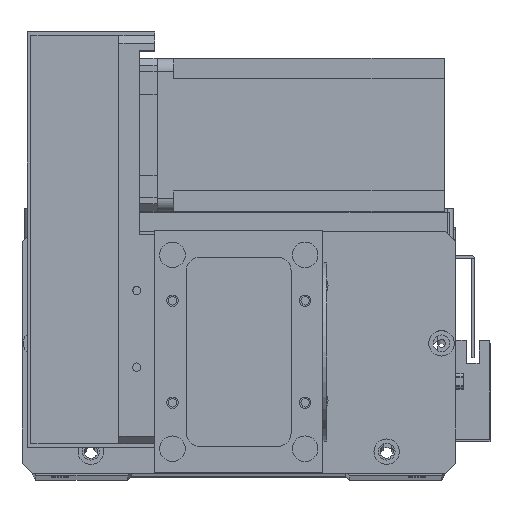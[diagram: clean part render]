
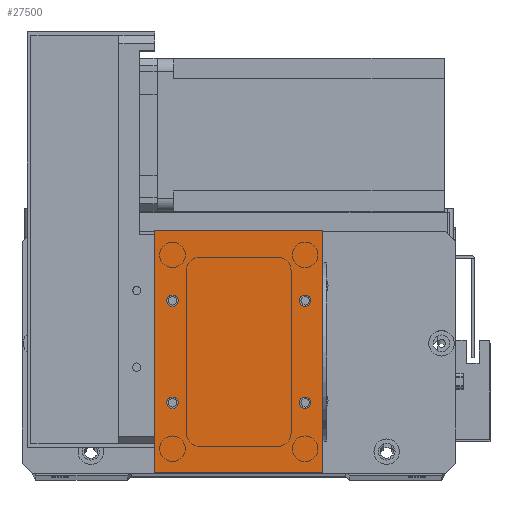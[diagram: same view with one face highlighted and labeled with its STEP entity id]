
A CAD part, top view. The second image highlights one B-rep face of the part: STEP entity #27500.
In plain terms, the highlighted planar face has unit normal (0, 0, 1).
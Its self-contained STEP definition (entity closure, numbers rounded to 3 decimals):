
#495 = ORIENTED_EDGE ( 'NONE', *, *, #8821, .F. ) ;
#1151 = CARTESIAN_POINT ( 'NONE',  ( 59., 67.5, 2. ) ) ;
#1283 = CARTESIAN_POINT ( 'NONE',  ( 56.75, 27.5, 2. ) ) ;
#1325 = VERTEX_POINT ( 'NONE', #14558 ) ;
#1907 = ORIENTED_EDGE ( 'NONE', *, *, #3345, .F. ) ;
#2435 = CIRCLE ( 'NONE', #11337, 2.25 ) ;
#2570 = VECTOR ( 'NONE', #3395, 1000. ) ;
#3345 = EDGE_CURVE ( 'NONE', #15956, #5328, #23973, .T. ) ;
#3395 = DIRECTION ( 'NONE',  ( 0., 1., 0. ) ) ;
#3399 = CARTESIAN_POINT ( 'NONE',  ( 61.25, 67.5, 2. ) ) ;
#3590 = DIRECTION ( 'NONE',  ( 1., 0., 0. ) ) ;
#3611 = CIRCLE ( 'NONE', #29506, 2.25 ) ;
#3746 = ORIENTED_EDGE ( 'NONE', *, *, #20732, .T. ) ;
#4739 = VECTOR ( 'NONE', #21566, 1000. ) ;
#4753 = EDGE_CURVE ( 'NONE', #9817, #18248, #24252, .T. ) ;
#4979 = FACE_BOUND ( 'NONE', #23261, .T. ) ;
#5328 = VERTEX_POINT ( 'NONE', #3399 ) ;
#5499 = LINE ( 'NONE', #14228, #4739 ) ;
#5557 = VECTOR ( 'NONE', #27913, 1000. ) ;
#5656 = VECTOR ( 'NONE', #30428, 1000. ) ;
#5910 = VERTEX_POINT ( 'NONE', #1283 ) ;
#6251 = ORIENTED_EDGE ( 'NONE', *, *, #14326, .F. ) ;
#6883 = CIRCLE ( 'NONE', #19799, 2.25 ) ;
#7106 = PLANE ( 'NONE',  #12687 ) ;
#7170 = CARTESIAN_POINT ( 'NONE',  ( 9.25, 67.5, 2. ) ) ;
#7381 = DIRECTION ( 'NONE',  ( 0., 0., 1. ) ) ;
#7490 = VERTEX_POINT ( 'NONE', #22268 ) ;
#8037 = CIRCLE ( 'NONE', #22294, 2.25 ) ;
#8254 = CARTESIAN_POINT ( 'NONE',  ( 7., 27.5, 2. ) ) ;
#8385 = ORIENTED_EDGE ( 'NONE', *, *, #10514, .F. ) ;
#8672 = ORIENTED_EDGE ( 'NONE', *, *, #17913, .F. ) ;
#8821 = EDGE_CURVE ( 'NONE', #7490, #30368, #26338, .T. ) ;
#9564 = DIRECTION ( 'NONE',  ( -1., 0., 0. ) ) ;
#9817 = VERTEX_POINT ( 'NONE', #16809 ) ;
#10223 = DIRECTION ( 'NONE',  ( 0., 0., 1. ) ) ;
#10514 = EDGE_CURVE ( 'NONE', #26130, #27397, #6883, .T. ) ;
#10553 = CARTESIAN_POINT ( 'NONE',  ( 66., 95., 2. ) ) ;
#10592 = LINE ( 'NONE', #30069, #2570 ) ;
#10692 = FACE_OUTER_BOUND ( 'NONE', #25922, .T. ) ;
#10721 = DIRECTION ( 'NONE',  ( 1., 0., 0. ) ) ;
#11205 = AXIS2_PLACEMENT_3D ( 'NONE', #14096, #31077, #16533 ) ;
#11337 = AXIS2_PLACEMENT_3D ( 'NONE', #1151, #18175, #3590 ) ;
#11464 = FACE_BOUND ( 'NONE', #19363, .T. ) ;
#11471 = CARTESIAN_POINT ( 'NONE',  ( 7., 67.5, 2. ) ) ;
#11882 = CARTESIAN_POINT ( 'NONE',  ( 59., 67.5, 2. ) ) ;
#12155 = ORIENTED_EDGE ( 'NONE', *, *, #22441, .F. ) ;
#12687 = AXIS2_PLACEMENT_3D ( 'NONE', #31322, #24145, #9564 ) ;
#13354 = CARTESIAN_POINT ( 'NONE',  ( 0., 0., 2. ) ) ;
#13371 = EDGE_LOOP ( 'NONE', ( #12155, #8385 ) ) ;
#13533 = CIRCLE ( 'NONE', #11205, 2.25 ) ;
#13719 = VERTEX_POINT ( 'NONE', #10553 ) ;
#13921 = DIRECTION ( 'NONE',  ( 1., 0., 0. ) ) ;
#14096 = CARTESIAN_POINT ( 'NONE',  ( 7., 67.5, 2. ) ) ;
#14228 = CARTESIAN_POINT ( 'NONE',  ( 0., 0., 2. ) ) ;
#14326 = EDGE_CURVE ( 'NONE', #5328, #15956, #2435, .T. ) ;
#14334 = DIRECTION ( 'NONE',  ( 1., 0., 0. ) ) ;
#14500 = DIRECTION ( 'NONE',  ( 0., 0., 1. ) ) ;
#14558 = CARTESIAN_POINT ( 'NONE',  ( 61.25, 27.5, 2. ) ) ;
#15956 = VERTEX_POINT ( 'NONE', #17694 ) ;
#16383 = CARTESIAN_POINT ( 'NONE',  ( 9.25, 27.5, 2. ) ) ;
#16533 = DIRECTION ( 'NONE',  ( 1., 0., 0. ) ) ;
#16809 = CARTESIAN_POINT ( 'NONE',  ( 0., 0., 2. ) ) ;
#16904 = AXIS2_PLACEMENT_3D ( 'NONE', #11471, #28492, #13921 ) ;
#17176 = FACE_BOUND ( 'NONE', #13371, .T. ) ;
#17694 = CARTESIAN_POINT ( 'NONE',  ( 56.75, 67.5, 2. ) ) ;
#17913 = EDGE_CURVE ( 'NONE', #1325, #5910, #26390, .T. ) ;
#18005 = ORIENTED_EDGE ( 'NONE', *, *, #24679, .F. ) ;
#18175 = DIRECTION ( 'NONE',  ( 0., 0., 1. ) ) ;
#18248 = VERTEX_POINT ( 'NONE', #27812 ) ;
#18617 = LINE ( 'NONE', #25596, #5656 ) ;
#18718 = EDGE_CURVE ( 'NONE', #5910, #1325, #8037, .T. ) ;
#18923 = ORIENTED_EDGE ( 'NONE', *, *, #22608, .T. ) ;
#19363 = EDGE_LOOP ( 'NONE', ( #8672, #24315 ) ) ;
#19799 = AXIS2_PLACEMENT_3D ( 'NONE', #21958, #7381, #24438 ) ;
#19949 = CARTESIAN_POINT ( 'NONE',  ( 4.75, 27.5, 2. ) ) ;
#20124 = EDGE_CURVE ( 'NONE', #13719, #24733, #18617, .T. ) ;
#20732 = EDGE_CURVE ( 'NONE', #18248, #13719, #10592, .T. ) ;
#21552 = ORIENTED_EDGE ( 'NONE', *, *, #4753, .T. ) ;
#21566 = DIRECTION ( 'NONE',  ( 0., -1., 0. ) ) ;
#21958 = CARTESIAN_POINT ( 'NONE',  ( 7., 27.5, 2. ) ) ;
#22268 = CARTESIAN_POINT ( 'NONE',  ( 4.75, 67.5, 2. ) ) ;
#22294 = AXIS2_PLACEMENT_3D ( 'NONE', #24806, #10223, #27247 ) ;
#22441 = EDGE_CURVE ( 'NONE', #27397, #26130, #3611, .T. ) ;
#22608 = EDGE_CURVE ( 'NONE', #24733, #9817, #5499, .T. ) ;
#23137 = EDGE_LOOP ( 'NONE', ( #18005, #495 ) ) ;
#23261 = EDGE_LOOP ( 'NONE', ( #6251, #1907 ) ) ;
#23644 = FACE_BOUND ( 'NONE', #23137, .T. ) ;
#23973 = CIRCLE ( 'NONE', #24144, 2.25 ) ;
#24144 = AXIS2_PLACEMENT_3D ( 'NONE', #11882, #28902, #14334 ) ;
#24145 = DIRECTION ( 'NONE',  ( 0., 0., -1. ) ) ;
#24252 = LINE ( 'NONE', #13354, #5557 ) ;
#24315 = ORIENTED_EDGE ( 'NONE', *, *, #18718, .F. ) ;
#24438 = DIRECTION ( 'NONE',  ( 1., 0., 0. ) ) ;
#24679 = EDGE_CURVE ( 'NONE', #30368, #7490, #13533, .T. ) ;
#24733 = VERTEX_POINT ( 'NONE', #28861 ) ;
#24806 = CARTESIAN_POINT ( 'NONE',  ( 59., 27.5, 2. ) ) ;
#25313 = DIRECTION ( 'NONE',  ( 0., 0., 1. ) ) ;
#25596 = CARTESIAN_POINT ( 'NONE',  ( 0., 95., 2. ) ) ;
#25789 = ORIENTED_EDGE ( 'NONE', *, *, #20124, .T. ) ;
#25922 = EDGE_LOOP ( 'NONE', ( #18923, #21552, #3746, #25789 ) ) ;
#26130 = VERTEX_POINT ( 'NONE', #19949 ) ;
#26338 = CIRCLE ( 'NONE', #16904, 2.25 ) ;
#26390 = CIRCLE ( 'NONE', #27382, 2.25 ) ;
#27247 = DIRECTION ( 'NONE',  ( 1., 0., 0. ) ) ;
#27382 = AXIS2_PLACEMENT_3D ( 'NONE', #29054, #14500, #31492 ) ;
#27397 = VERTEX_POINT ( 'NONE', #16383 ) ;
#27500 = ADVANCED_FACE ( 'NONE', ( #23644, #4979, #11464, #17176, #10692 ), #7106, .F. ) ;
#27812 = CARTESIAN_POINT ( 'NONE',  ( 66., 0., 2. ) ) ;
#27913 = DIRECTION ( 'NONE',  ( 1., 0., 0. ) ) ;
#28492 = DIRECTION ( 'NONE',  ( 0., 0., 1. ) ) ;
#28861 = CARTESIAN_POINT ( 'NONE',  ( 0., 95., 2. ) ) ;
#28902 = DIRECTION ( 'NONE',  ( 0., 0., 1. ) ) ;
#29054 = CARTESIAN_POINT ( 'NONE',  ( 59., 27.5, 2. ) ) ;
#29506 = AXIS2_PLACEMENT_3D ( 'NONE', #8254, #25313, #10721 ) ;
#30069 = CARTESIAN_POINT ( 'NONE',  ( 66., 0., 2. ) ) ;
#30368 = VERTEX_POINT ( 'NONE', #7170 ) ;
#30428 = DIRECTION ( 'NONE',  ( -1., 0., 0. ) ) ;
#31077 = DIRECTION ( 'NONE',  ( 0., 0., 1. ) ) ;
#31322 = CARTESIAN_POINT ( 'NONE',  ( 0., 0., 2. ) ) ;
#31492 = DIRECTION ( 'NONE',  ( 1., 0., 0. ) ) ;
